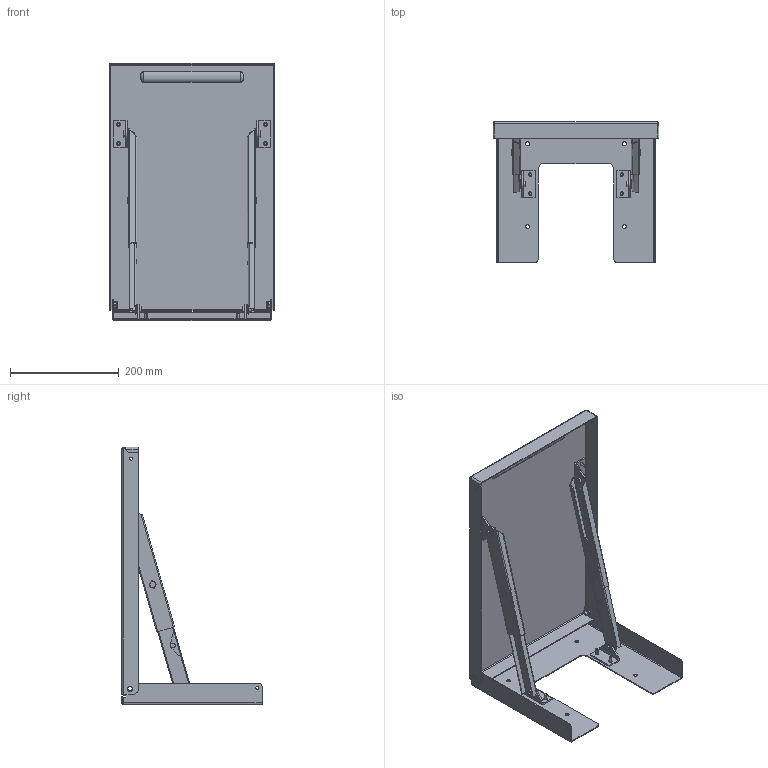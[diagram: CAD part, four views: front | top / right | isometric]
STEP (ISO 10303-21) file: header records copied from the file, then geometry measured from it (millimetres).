
FILE_DESCRIPTION (( 'STEP AP203' ), '1' );
FILE_NAME ('aashlf1218.STEP', '2013-03-28T15:43:42', ( 'User' ), ( 'Pentair Inc' ), 'SwSTEP 2.0', 'SolidWorks 2010', '' );
FILE_SCHEMA (( 'CONFIG_CONTROL_DESIGN' ));
Length unit declared in the file: inch
Products named in the file (15): 87950256_extended engaged left; 87950256_extended engaged right; 87950259; 87950258; 87950257; 22101011; 99411975_99411975; 99401230; aashlf1218; 87939598; 87939599; 87939589; 87939590; 99404181; 87576347
Assembly tree (36 placements, depth 3):
  aashlf1218
    87950256_extended engaged right
      87950257
      99401230  x2
      87950259  x2
      22101011  x2
      99411975_99411975  x2
      87950258
    87576347  x2
    87939589
      99404181  x4
      87939590
    87950256_extended engaged left
      87950259  x2
      87950257
      99411975_99411975  x2
      87950258
      22101011  x2
      99401230  x2
    87939598
      99404181  x4
      87939599
Bounding box: 304.82 x 257.35 x 473.38 mm (x, y, z)
Volume: 591306.6 mm3; surface area: 662365.4 mm2
Topology: 56 solids, 56 shells, 1308 faces, 2970 edges, 1806 vertices
Faces by surface type: cylinder 472, plane 456, cone 304, torus 62, bspline 14
Entity records: 21068 total; most frequent: CARTESIAN_POINT 5731, DIRECTION 2814, ORIENTED_EDGE 2650, EDGE_CURVE 1325, AXIS2_PLACEMENT_3D 1074, VERTEX_POINT 815, LINE 666, VECTOR 666
